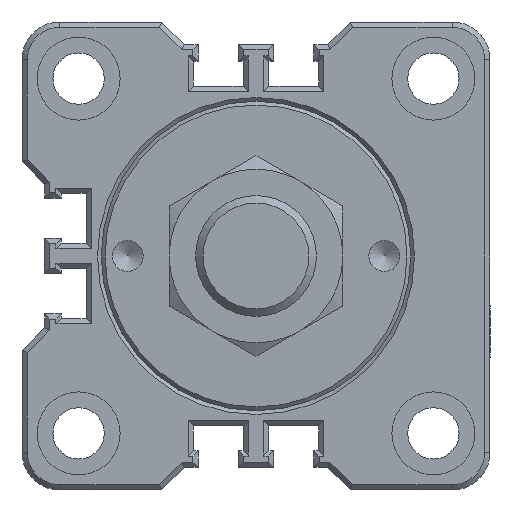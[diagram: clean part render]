
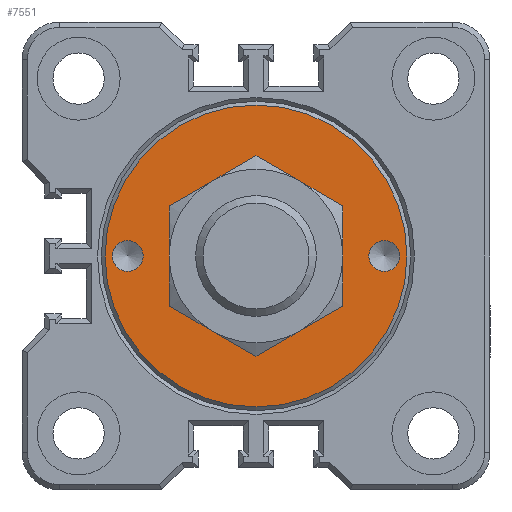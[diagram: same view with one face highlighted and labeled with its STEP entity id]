
A CAD part, front view. The second image highlights one B-rep face of the part: STEP entity #7551.
In plain terms, the highlighted planar face has unit normal (0, -1, 0).
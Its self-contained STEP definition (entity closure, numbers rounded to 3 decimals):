
#1636=ORIENTED_EDGE('',*,*,#2896,.T.);
#1637=ORIENTED_EDGE('',*,*,#2895,.F.);
#1638=ORIENTED_EDGE('',*,*,#2894,.T.);
#1639=ORIENTED_EDGE('',*,*,#2923,.T.);
#2894=EDGE_CURVE('',#3566,#3566,#3960,.T.);
#2895=EDGE_CURVE('',#3567,#3567,#3961,.T.);
#2896=EDGE_CURVE('',#3568,#3568,#3962,.T.);
#2923=EDGE_CURVE('',#3589,#3589,#3965,.T.);
#3566=VERTEX_POINT('',#10610);
#3567=VERTEX_POINT('',#10613);
#3568=VERTEX_POINT('',#10616);
#3589=VERTEX_POINT('',#10787);
#3960=CIRCLE('',#7910,2.05);
#3961=CIRCLE('',#7912,10.);
#3962=CIRCLE('',#7914,2.05);
#3965=CIRCLE('',#7920,20.);
#4129=EDGE_LOOP('',(#1636));
#4130=EDGE_LOOP('',(#1637));
#4131=EDGE_LOOP('',(#1638));
#4132=EDGE_LOOP('',(#1639));
#4537=FACE_BOUND('',#4129,.T.);
#4538=FACE_BOUND('',#4130,.T.);
#4539=FACE_BOUND('',#4131,.T.);
#4540=FACE_BOUND('',#4132,.T.);
#4867=PLANE('',#7919);
#7551=ADVANCED_FACE('',(#4537,#4538,#4539,#4540),#4867,.T.);
#7910=AXIS2_PLACEMENT_3D('',#10609,#8475,#8476);
#7912=AXIS2_PLACEMENT_3D('',#10612,#8479,#8480);
#7914=AXIS2_PLACEMENT_3D('',#10615,#8483,#8484);
#7919=AXIS2_PLACEMENT_3D('',#10785,#8493,#8494);
#7920=AXIS2_PLACEMENT_3D('',#10786,#8495,#8496);
#8475=DIRECTION('',(0.,1.,0.));
#8476=DIRECTION('',(0.,0.,-1.));
#8479=DIRECTION('',(0.,-1.,0.));
#8480=DIRECTION('',(1.,0.,0.));
#8483=DIRECTION('',(0.,1.,0.));
#8484=DIRECTION('',(0.,0.,-1.));
#8493=DIRECTION('',(0.,-1.,0.));
#8494=DIRECTION('',(1.,0.,0.));
#8495=DIRECTION('',(0.,-1.,0.));
#8496=DIRECTION('',(0.,0.,-1.));
#10609=CARTESIAN_POINT('',(-17.,0.,0.));
#10610=CARTESIAN_POINT('',(-17.,0.,-2.05));
#10612=CARTESIAN_POINT('',(0.,0.,0.));
#10613=CARTESIAN_POINT('',(10.,0.,0.));
#10615=CARTESIAN_POINT('',(17.,0.,0.));
#10616=CARTESIAN_POINT('',(17.,0.,-2.05));
#10785=CARTESIAN_POINT('',(-26.,0.,26.));
#10786=CARTESIAN_POINT('',(0.,0.,0.));
#10787=CARTESIAN_POINT('',(0.,0.,-20.));
